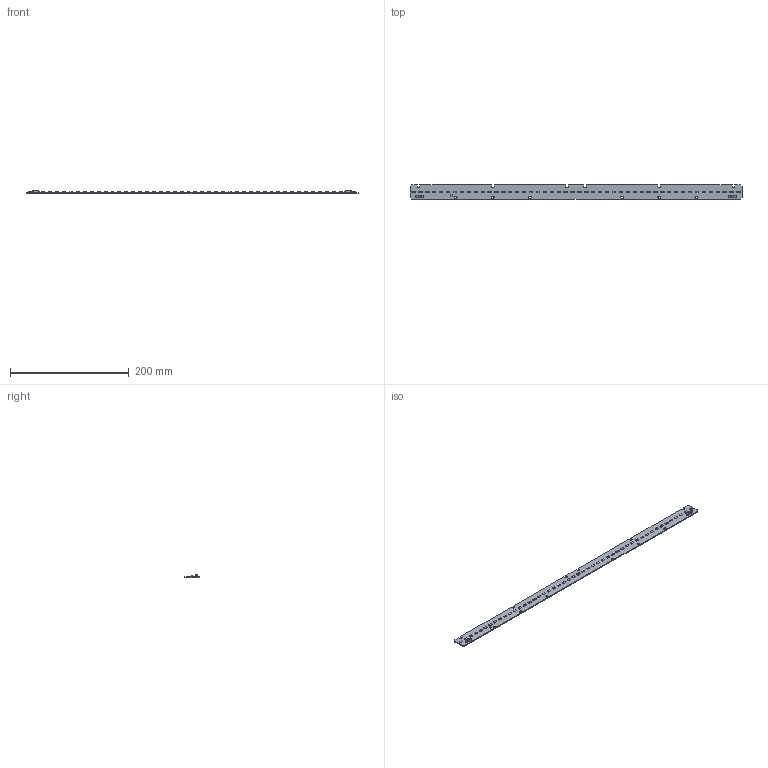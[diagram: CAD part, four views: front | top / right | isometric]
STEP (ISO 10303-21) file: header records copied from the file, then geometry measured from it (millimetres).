
FILE_DESCRIPTION((''),'2;1');
FILE_NAME('16206871_LLE-G4_24X560_2400LM','2016-07-01T',('bernhard.fink'),(''),'PRO/ENGINEER BY PARAMETRIC TECHNOLOGY CORPORATION, 2015200','PRO/ENGINEER BY PARAMETRIC TECHNOLOGY CORPORATION, 2015200','');
FILE_SCHEMA(('AUTOMOTIVE_DESIGN { 1 0 10303 214 1 1 1 1 }'));
Products named in the file (1): 16206871_LLE-G4_24X560_2400LM
Bounding box: 559 x 23.6 x 5.1 mm (x, y, z)
Volume: 22319.1 mm3; surface area: 29167 mm2
Topology: 1 solids, 1 shells, 2312 faces, 6412 edges, 4174 vertices
Faces by surface type: plane 1374, cylinder 740, bspline 116, cone 34, revolution 24, torus 12, sphere 12
Entity records: 112099 total; most frequent: CARTESIAN_POINT 21386, ORIENTED_EDGE 12752, DIRECTION 10836, PRESENTATION_STYLE_ASSIGNMENT 8329, STYLED_ITEM 6401, CURVE_STYLE 6400, EDGE_CURVE 6376, VECTOR 4332
